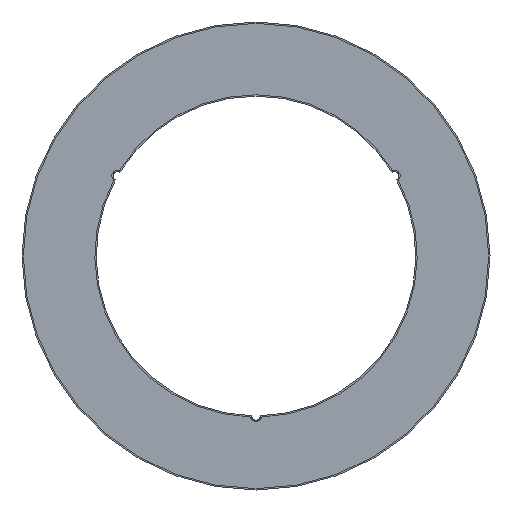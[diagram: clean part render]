
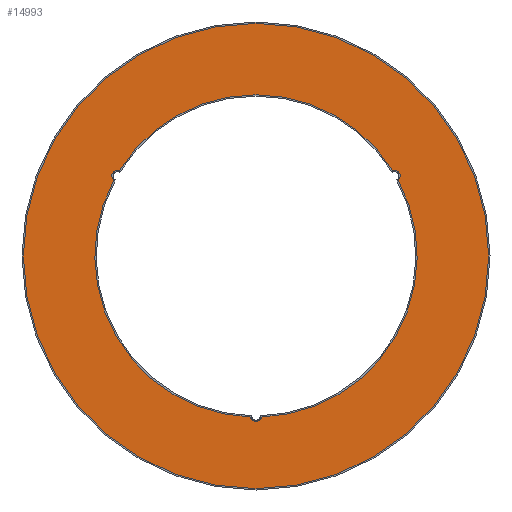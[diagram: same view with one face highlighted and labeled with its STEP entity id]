
A CAD part, front view. The second image highlights one B-rep face of the part: STEP entity #14993.
In plain terms, the highlighted planar face has unit normal (0, -1, 0).
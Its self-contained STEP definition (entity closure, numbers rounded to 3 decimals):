
#135 = VERTEX_POINT ( 'NONE', #18386 ) ;
#519 = CIRCLE ( 'NONE', #43120, 0.65 ) ;
#634 = ORIENTED_EDGE ( 'NONE', *, *, #6780, .F. ) ;
#1574 = CIRCLE ( 'NONE', #13711, 18.15 ) ;
#1757 = CIRCLE ( 'NONE', #8967, 0.65 ) ;
#2996 = CARTESIAN_POINT ( 'NONE',  ( 0., -0.035, -26.2 ) ) ;
#3274 = CARTESIAN_POINT ( 'NONE',  ( -15.588, -0.035, 9. ) ) ;
#3867 = CARTESIAN_POINT ( 'NONE',  ( 0., -0.035, 18.15 ) ) ;
#5735 = CIRCLE ( 'NONE', #17884, 26.2 ) ;
#6780 = EDGE_CURVE ( 'NONE', #57456, #50474, #1574, .T. ) ;
#8489 = CARTESIAN_POINT ( 'NONE',  ( 0., -0.035, -18. ) ) ;
#8802 = DIRECTION ( 'NONE',  ( 0., -1., 0. ) ) ;
#8879 = AXIS2_PLACEMENT_3D ( 'NONE', #18373, #22843, #13540 ) ;
#8909 = CARTESIAN_POINT ( 'NONE',  ( 0.635, -0.035, -18.139 ) ) ;
#8967 = AXIS2_PLACEMENT_3D ( 'NONE', #33233, #46592, #51035 ) ;
#9135 = EDGE_CURVE ( 'NONE', #40132, #55706, #13452, .T. ) ;
#9438 = CIRCLE ( 'NONE', #18891, 0.65 ) ;
#10016 = VERTEX_POINT ( 'NONE', #15859 ) ;
#11132 = ORIENTED_EDGE ( 'NONE', *, *, #34344, .F. ) ;
#11877 = CARTESIAN_POINT ( 'NONE',  ( 15.391, -0.035, 9.619 ) ) ;
#12406 = CARTESIAN_POINT ( 'NONE',  ( -15.391, -0.035, 9.619 ) ) ;
#12679 = VERTEX_POINT ( 'NONE', #51025 ) ;
#13355 = ORIENTED_EDGE ( 'NONE', *, *, #24838, .F. ) ;
#13416 = DIRECTION ( 'NONE',  ( 0., 0., -1. ) ) ;
#13452 = CIRCLE ( 'NONE', #21367, 26.2 ) ;
#13540 = DIRECTION ( 'NONE',  ( 0., 0., -1. ) ) ;
#13711 = AXIS2_PLACEMENT_3D ( 'NONE', #28405, #36938, #19323 ) ;
#14993 = ADVANCED_FACE ( 'NONE', ( #39956, #16381 ), #47727, .T. ) ;
#15539 = CARTESIAN_POINT ( 'NONE',  ( -15.588, -0.035, 9. ) ) ;
#15859 = CARTESIAN_POINT ( 'NONE',  ( -15.588, -0.035, 9.65 ) ) ;
#16119 = VERTEX_POINT ( 'NONE', #12406 ) ;
#16381 = FACE_BOUND ( 'NONE', #19460, .T. ) ;
#16748 = DIRECTION ( 'NONE',  ( 0., -1., 0. ) ) ;
#17001 = DIRECTION ( 'NONE',  ( 0., 0., -1. ) ) ;
#17255 = CARTESIAN_POINT ( 'NONE',  ( 15.588, -0.035, 9. ) ) ;
#17884 = AXIS2_PLACEMENT_3D ( 'NONE', #54072, #27728, #32206 ) ;
#17940 = EDGE_CURVE ( 'NONE', #135, #57456, #53389, .T. ) ;
#18373 = CARTESIAN_POINT ( 'NONE',  ( 0., -0.035, 0. ) ) ;
#18386 = CARTESIAN_POINT ( 'NONE',  ( 15.588, -0.035, 9.65 ) ) ;
#18711 = CARTESIAN_POINT ( 'NONE',  ( -0.635, -0.035, -18.139 ) ) ;
#18891 = AXIS2_PLACEMENT_3D ( 'NONE', #8489, #16748, #30286 ) ;
#19323 = DIRECTION ( 'NONE',  ( 0., 0., -1. ) ) ;
#19460 = EDGE_LOOP ( 'NONE', ( #29343, #11132, #22090, #42514, #28491, #13355, #32589, #634, #34492 ) ) ;
#20364 = DIRECTION ( 'NONE',  ( 0., -1., 0. ) ) ;
#20727 = ORIENTED_EDGE ( 'NONE', *, *, #9135, .T. ) ;
#21367 = AXIS2_PLACEMENT_3D ( 'NONE', #51412, #48695, #52370 ) ;
#22015 = EDGE_CURVE ( 'NONE', #50474, #16119, #47876, .T. ) ;
#22090 = ORIENTED_EDGE ( 'NONE', *, *, #43970, .F. ) ;
#22271 = AXIS2_PLACEMENT_3D ( 'NONE', #3274, #55893, #28975 ) ;
#22843 = DIRECTION ( 'NONE',  ( 0., -1., 0. ) ) ;
#24838 = EDGE_CURVE ( 'NONE', #16119, #10016, #52595, .T. ) ;
#26163 = EDGE_CURVE ( 'NONE', #12679, #135, #1757, .T. ) ;
#26341 = DIRECTION ( 'NONE',  ( 0., -1., 0. ) ) ;
#27022 = CARTESIAN_POINT ( 'NONE',  ( 0., -0.035, 26.2 ) ) ;
#27728 = DIRECTION ( 'NONE',  ( 0., -1., 0. ) ) ;
#28405 = CARTESIAN_POINT ( 'NONE',  ( 0., -0.035, 0. ) ) ;
#28491 = ORIENTED_EDGE ( 'NONE', *, *, #40988, .F. ) ;
#28975 = DIRECTION ( 'NONE',  ( 0., 0., -1. ) ) ;
#29328 = CIRCLE ( 'NONE', #8879, 18.15 ) ;
#29343 = ORIENTED_EDGE ( 'NONE', *, *, #26163, .F. ) ;
#29905 = DIRECTION ( 'NONE',  ( 0., 0., -1. ) ) ;
#30286 = DIRECTION ( 'NONE',  ( 0., 0., -1. ) ) ;
#32206 = DIRECTION ( 'NONE',  ( 0., 0., -1. ) ) ;
#32589 = ORIENTED_EDGE ( 'NONE', *, *, #22015, .F. ) ;
#32823 = EDGE_CURVE ( 'NONE', #54503, #49377, #38552, .T. ) ;
#33233 = CARTESIAN_POINT ( 'NONE',  ( 15.588, -0.035, 9. ) ) ;
#34344 = EDGE_CURVE ( 'NONE', #48939, #12679, #29328, .T. ) ;
#34492 = ORIENTED_EDGE ( 'NONE', *, *, #17940, .F. ) ;
#34632 = CARTESIAN_POINT ( 'NONE',  ( 0., -0.035, 0. ) ) ;
#36218 = AXIS2_PLACEMENT_3D ( 'NONE', #39915, #8802, #13416 ) ;
#36938 = DIRECTION ( 'NONE',  ( 0., -1., 0. ) ) ;
#38552 = CIRCLE ( 'NONE', #46599, 18.15 ) ;
#39915 = CARTESIAN_POINT ( 'NONE',  ( 0., -0.035, 0. ) ) ;
#39956 = FACE_OUTER_BOUND ( 'NONE', #43177, .T. ) ;
#40132 = VERTEX_POINT ( 'NONE', #2996 ) ;
#40437 = AXIS2_PLACEMENT_3D ( 'NONE', #52021, #56449, #29905 ) ;
#40988 = EDGE_CURVE ( 'NONE', #10016, #54503, #519, .T. ) ;
#41348 = AXIS2_PLACEMENT_3D ( 'NONE', #17255, #26341, #57138 ) ;
#42514 = ORIENTED_EDGE ( 'NONE', *, *, #32823, .F. ) ;
#43120 = AXIS2_PLACEMENT_3D ( 'NONE', #15539, #20364, #51354 ) ;
#43177 = EDGE_LOOP ( 'NONE', ( #48017, #20727 ) ) ;
#43970 = EDGE_CURVE ( 'NONE', #49377, #48939, #9438, .T. ) ;
#46592 = DIRECTION ( 'NONE',  ( 0., -1., 0. ) ) ;
#46599 = AXIS2_PLACEMENT_3D ( 'NONE', #34632, #52821, #17001 ) ;
#47727 = PLANE ( 'NONE',  #40437 ) ;
#47876 = CIRCLE ( 'NONE', #36218, 18.15 ) ;
#48017 = ORIENTED_EDGE ( 'NONE', *, *, #49752, .T. ) ;
#48695 = DIRECTION ( 'NONE',  ( 0., -1., 0. ) ) ;
#48939 = VERTEX_POINT ( 'NONE', #8909 ) ;
#49377 = VERTEX_POINT ( 'NONE', #18711 ) ;
#49752 = EDGE_CURVE ( 'NONE', #55706, #40132, #5735, .T. ) ;
#50474 = VERTEX_POINT ( 'NONE', #3867 ) ;
#51025 = CARTESIAN_POINT ( 'NONE',  ( 16.026, -0.035, 8.52 ) ) ;
#51035 = DIRECTION ( 'NONE',  ( 0., 0., -1. ) ) ;
#51354 = DIRECTION ( 'NONE',  ( 0., 0., -1. ) ) ;
#51412 = CARTESIAN_POINT ( 'NONE',  ( 0., -0.035, 0. ) ) ;
#52021 = CARTESIAN_POINT ( 'NONE',  ( 0., -0.035, 0. ) ) ;
#52370 = DIRECTION ( 'NONE',  ( 0., 0., -1. ) ) ;
#52595 = CIRCLE ( 'NONE', #22271, 0.65 ) ;
#52821 = DIRECTION ( 'NONE',  ( 0., -1., 0. ) ) ;
#52928 = CARTESIAN_POINT ( 'NONE',  ( -16.026, -0.035, 8.52 ) ) ;
#53389 = CIRCLE ( 'NONE', #41348, 0.65 ) ;
#54072 = CARTESIAN_POINT ( 'NONE',  ( 0., -0.035, 0. ) ) ;
#54503 = VERTEX_POINT ( 'NONE', #52928 ) ;
#55706 = VERTEX_POINT ( 'NONE', #27022 ) ;
#55893 = DIRECTION ( 'NONE',  ( 0., -1., 0. ) ) ;
#56449 = DIRECTION ( 'NONE',  ( 0., -1., 0. ) ) ;
#57138 = DIRECTION ( 'NONE',  ( 0., 0., -1. ) ) ;
#57456 = VERTEX_POINT ( 'NONE', #11877 ) ;
